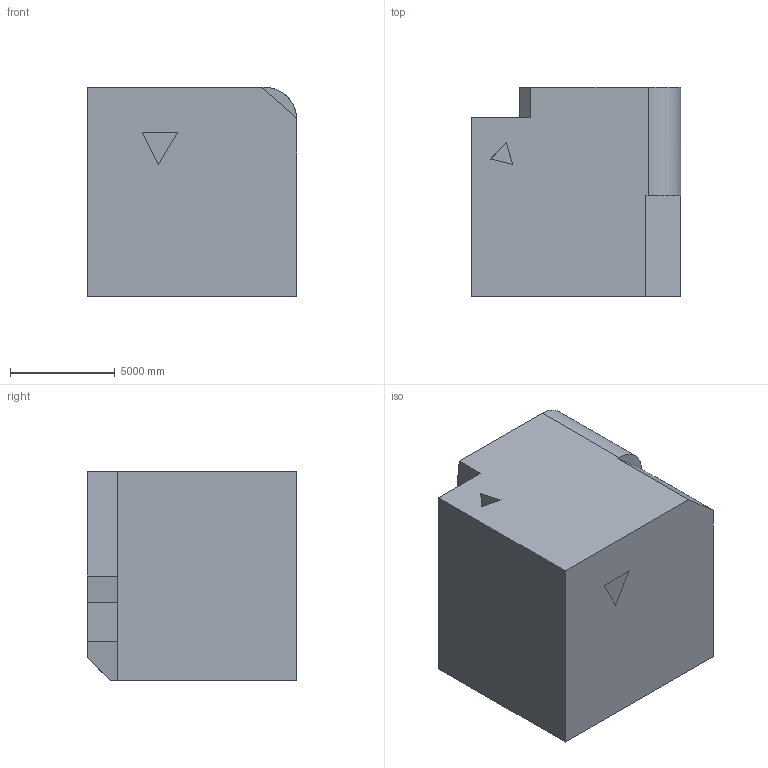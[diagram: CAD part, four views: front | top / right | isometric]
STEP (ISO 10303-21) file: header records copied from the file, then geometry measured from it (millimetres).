
FILE_DESCRIPTION (( 'STEP AP203' ), '1' );
FILE_NAME ('724.STEP', '2022-07-29T12:46:20', ( 'user' ), ( '' ), 'SwSTEP 2.0', 'SolidWorks 2021', '' );
FILE_SCHEMA (( 'CONFIG_CONTROL_DESIGN' ));
Length unit declared in the file: centimetre
Products named in the file (1): 724
Bounding box: 10000 x 10000 x 10000 mm (x, y, z)
Volume: 899399666788.7 mm3; surface area: 678569169.8 mm2
Topology: 1 solids, 1 shells, 29 faces, 75 edges, 50 vertices
Faces by surface type: plane 27, cylinder 2
Entity records: 951 total; most frequent: CARTESIAN_POINT 158, ORIENTED_EDGE 150, DIRECTION 139, EDGE_CURVE 75, VECTOR 69, LINE 69, VERTEX_POINT 50, AXIS2_PLACEMENT_3D 35
